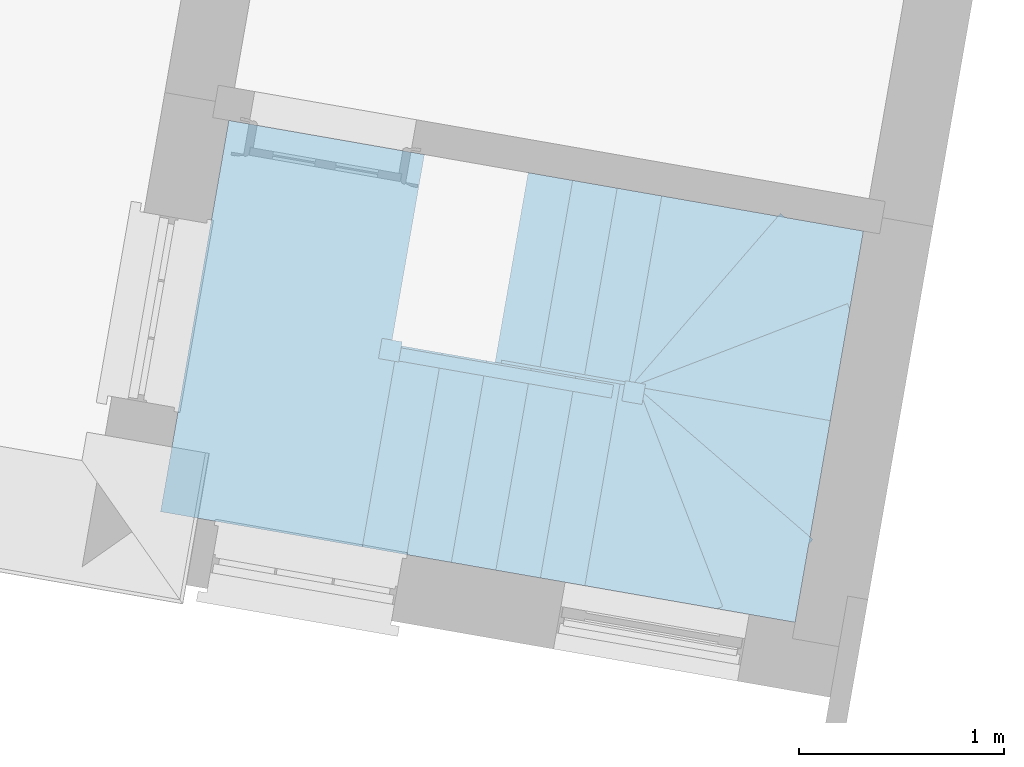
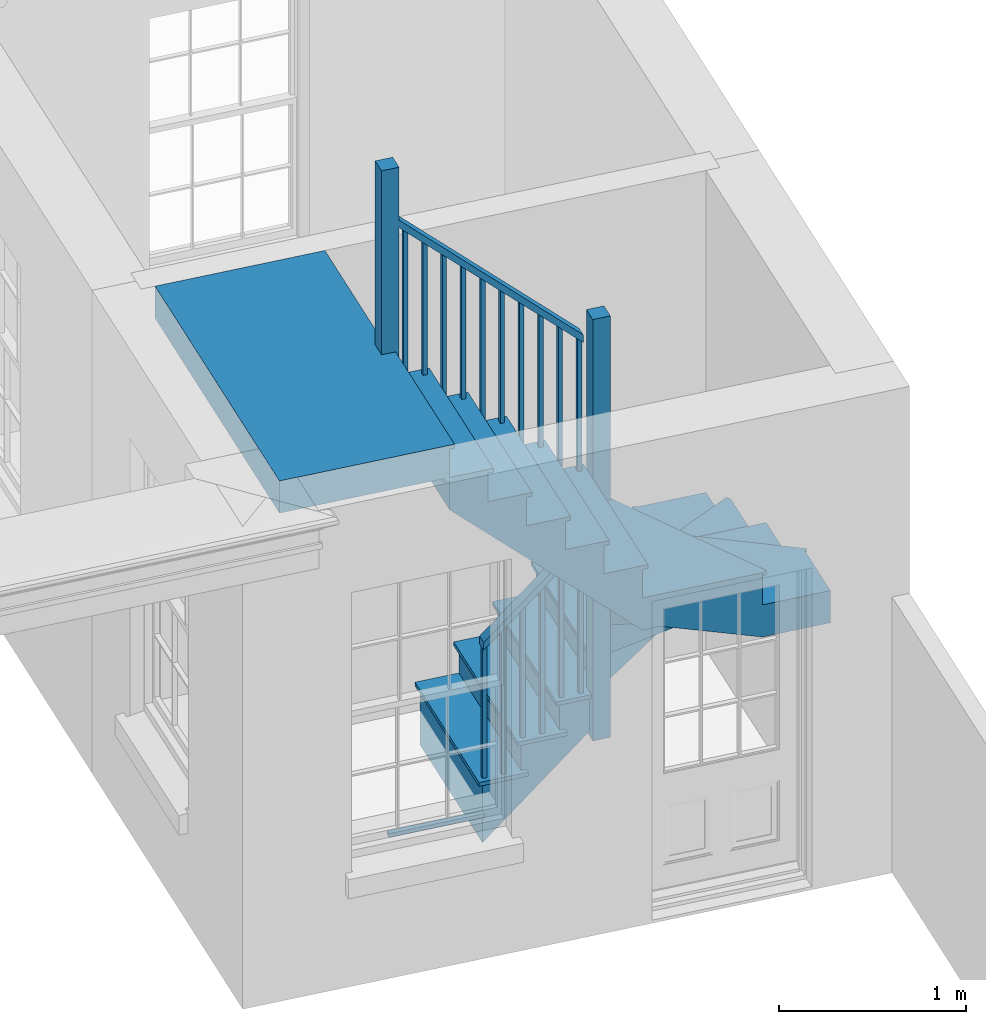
# One storey, part 4 of 4: 1 stair.
"""IFC4 building model written with IfcOpenShell, lengths in metres."""

from ifc_helpers import new_model, si_unit, frame, origin, origin_with_axes, place, context, subcontext, project, spatial, faceted_brep, element, save


model = new_model("IFC4")

# Units and contexts
model_context = context("Model", 3, world=origin_with_axes())
body_context = subcontext(model_context, "Body", "Model", "MODEL_VIEW")
ifc_project = project(units=[si_unit("PLANEANGLEUNIT", "RADIAN"), si_unit("MASSUNIT", "GRAM", prefix="KILO"), si_unit("FORCEUNIT", "NEWTON", prefix="KILO"), si_unit("LENGTHUNIT", "METRE"), si_unit("AREAUNIT", "SQUARE_METRE"), si_unit("VOLUMEUNIT", "CUBIC_METRE")], contexts=[model_context, model_context])

# Sites, building, storey
site_1_placement = place(None, origin_with_axes())
site_1 = spatial("IfcSite", under=ifc_project, at=site_1_placement, Name="Tamar")
site_2_placement = place(site_1_placement, origin_with_axes())
site_2 = spatial("IfcSite", under=site_1, at=site_2_placement, Name="Site plot-26", CompositionType="ELEMENT")
building_placement = place(None, origin_with_axes())
building = spatial("IfcBuilding", under=site_2, at=building_placement, Name="Building plot-26", CompositionType="ELEMENT")
storey_placement = place(None, frame((0.0, 0.0, 26.0), z_axis=(0.0, 0.0, 1.0), x_axis=(1.0, 0.0, 0.0)))
storey = spatial("IfcBuildingStorey", under=building, at=storey_placement, Name="plot-26 0", CompositionType="ELEMENT", Elevation=26.0)

# Stair
stair_placement = place(None, origin())
element("IfcStair", 1, at=stair_placement, inside=storey, Name="Stair", PredefinedType="NOTDEFINED", context=body_context, shape_type="Brep", body=[
    faceted_brep([(288.665286, 271.699276, 28.94), (288.499177, 270.746711, 28.94), (288.715906, 270.708918, 28.94), (288.882015, 271.661483, 28.94), (288.882015, 271.661483, 28.52), (288.715906, 270.708918, 28.52), (288.499177, 270.746711, 28.73), (288.665286, 271.699276, 28.73)], [[[0, 1, 2, 3]], [[4, 5, 6, 7]], [[7, 6, 1, 0]], [[1, 6, 5, 2]], [[5, 4, 3, 2]], [[3, 4, 7, 0]]]),
    faceted_brep([(288.74546, 270.703764, 28.915), (288.74546, 270.703764, 28.94), (288.715906, 270.708918, 28.915), (288.469623, 270.751865, 28.94), (288.469623, 270.751865, 28.915), (288.499177, 270.746711, 28.915), (288.715906, 270.708918, 28.94), (288.499177, 270.746711, 28.94), (288.916723, 271.685883, 28.94), (288.882015, 271.661483, 28.94), (288.882015, 271.661483, 28.915), (288.916723, 271.685883, 28.915), (288.640886, 271.733984, 28.94), (288.665286, 271.699276, 28.94), (288.665286, 271.699276, 28.915), (288.640886, 271.733984, 28.915)], [[[0, 1, 2]], [[3, 4, 5]], [[2, 1, 6]], [[3, 5, 7]], [[6, 1, 8, 9]], [[2, 6, 9, 10]], [[0, 2, 10, 11]], [[1, 0, 11, 8]], [[9, 8, 12, 13]], [[10, 9, 13, 14]], [[11, 10, 14, 15]], [[8, 11, 15, 12]], [[13, 12, 3, 7]], [[14, 13, 7, 5]], [[15, 14, 5, 4]], [[12, 15, 4, 3]]]),
    faceted_brep([(288.882015, 271.661483, 29.84), (288.857387, 271.665778, 29.84), (288.853092, 271.641149, 29.84), (288.877721, 271.636855, 29.84), (288.877721, 271.636855, 28.94), (288.853092, 271.641149, 28.94), (288.857387, 271.665778, 28.94), (288.882015, 271.661483, 28.94)], [[[0, 1, 2, 3]], [[4, 5, 6, 7]], [[7, 6, 1, 0]], [[6, 5, 2, 1]], [[5, 4, 3, 2]], [[4, 7, 0, 3]]]),
    faceted_brep([(288.773651, 271.68038, 29.945), (288.749022, 271.684674, 29.945), (288.744728, 271.660046, 29.945), (288.769356, 271.655751, 29.945), (288.769356, 271.655751, 28.94), (288.744728, 271.660046, 28.94), (288.749022, 271.684674, 28.94), (288.773651, 271.68038, 28.94)], [[[0, 1, 2, 3]], [[4, 5, 6, 7]], [[7, 6, 1, 0]], [[6, 5, 2, 1]], [[5, 4, 3, 2]], [[4, 7, 0, 3]]]),
    faceted_brep([(288.874285, 271.617152, 29.79), (288.885451, 271.681186, 29.79), (288.885451, 271.681186, 29.84), (288.874285, 271.617152, 29.84), (288.668722, 271.718979, 30.0), (288.657555, 271.654945, 30.0), (288.657555, 271.654945, 30.05), (288.668722, 271.718979, 30.05)], [[[0, 1, 2, 3]], [[4, 5, 6, 7]], [[0, 5, 4, 1]], [[3, 2, 7, 6]], [[0, 3, 6, 5]], [[2, 1, 4, 7]]]),
    faceted_brep([(288.882015, 271.661483, 28.73), (288.715906, 270.708918, 28.73), (288.932635, 270.671124, 28.73), (289.098745, 271.623689, 28.73), (289.098745, 271.623689, 28.31), (288.932635, 270.671124, 28.31), (288.715906, 270.708918, 28.52), (288.882015, 271.661483, 28.52)], [[[0, 1, 2, 3]], [[4, 5, 6, 7]], [[7, 6, 1, 0]], [[1, 6, 5, 2]], [[5, 4, 3, 2]], [[3, 4, 7, 0]]]),
    faceted_brep([(288.932635, 270.671124, 28.705), (288.96219, 270.665971, 28.705), (288.932635, 270.671124, 28.73), (288.686352, 270.714072, 28.705), (288.715906, 270.708918, 28.705), (288.715906, 270.708918, 28.73), (288.96219, 270.665971, 28.73), (288.686352, 270.714072, 28.73), (289.133452, 271.64809, 28.73), (289.098745, 271.623689, 28.73), (289.098745, 271.623689, 28.705), (289.133452, 271.64809, 28.705), (288.857615, 271.696191, 28.73), (288.882015, 271.661483, 28.73), (288.882015, 271.661483, 28.705), (288.857615, 271.696191, 28.705)], [[[0, 1, 2]], [[3, 4, 5]], [[1, 6, 2]], [[7, 3, 5]], [[2, 6, 8, 9]], [[0, 2, 9, 10]], [[1, 0, 10, 11]], [[6, 1, 11, 8]], [[9, 8, 12, 13]], [[10, 9, 13, 14]], [[11, 10, 14, 15]], [[8, 11, 15, 12]], [[13, 12, 7, 5]], [[14, 13, 5, 4]], [[15, 14, 4, 3]], [[12, 15, 3, 7]]]),
    faceted_brep([(289.098745, 271.623689, 29.63), (289.074116, 271.627984, 29.63), (289.069822, 271.603356, 29.63), (289.09445, 271.599061, 29.63), (289.09445, 271.599061, 28.73), (289.069822, 271.603356, 28.73), (289.074116, 271.627984, 28.73), (289.098745, 271.623689, 28.73)], [[[0, 1, 2, 3]], [[4, 5, 6, 7]], [[7, 6, 1, 0]], [[6, 5, 2, 1]], [[5, 4, 3, 2]], [[4, 7, 0, 3]]]),
    faceted_brep([(288.99038, 271.642586, 29.735), (288.965752, 271.646881, 29.735), (288.961457, 271.622253, 29.735), (288.986085, 271.617958, 29.735), (288.986085, 271.617958, 28.73), (288.961457, 271.622253, 28.73), (288.965752, 271.646881, 28.73), (288.99038, 271.642586, 28.73)], [[[0, 1, 2, 3]], [[4, 5, 6, 7]], [[7, 6, 1, 0]], [[6, 5, 2, 1]], [[5, 4, 3, 2]], [[4, 7, 0, 3]]]),
    faceted_brep([(289.091014, 271.579358, 29.58), (289.102181, 271.643392, 29.58), (289.102181, 271.643392, 29.63), (289.091014, 271.579358, 29.63), (288.885451, 271.681186, 29.79), (288.874285, 271.617152, 29.79), (288.874285, 271.617152, 29.84), (288.885451, 271.681186, 29.84)], [[[0, 1, 2, 3]], [[4, 5, 6, 7]], [[0, 5, 4, 1]], [[3, 2, 7, 6]], [[0, 3, 6, 5]], [[2, 1, 4, 7]]]),
    faceted_brep([(289.098745, 271.623689, 28.52), (288.932635, 270.671124, 28.52), (289.149365, 270.633331, 28.52), (289.315474, 271.585896, 28.52), (289.315474, 271.585896, 28.1), (289.149365, 270.633331, 28.1), (288.932635, 270.671124, 28.31), (289.098745, 271.623689, 28.31)], [[[0, 1, 2, 3]], [[4, 5, 6, 7]], [[7, 6, 1, 0]], [[1, 6, 5, 2]], [[5, 4, 3, 2]], [[3, 4, 7, 0]]]),
    faceted_brep([(289.149365, 270.633331, 28.495), (289.178919, 270.628177, 28.495), (289.149365, 270.633331, 28.52), (288.903081, 270.676278, 28.495), (288.932635, 270.671124, 28.495), (288.932635, 270.671124, 28.52), (289.178919, 270.628177, 28.52), (288.903081, 270.676278, 28.52), (289.350182, 271.610296, 28.52), (289.315474, 271.585896, 28.52), (289.315474, 271.585896, 28.495), (289.350182, 271.610296, 28.495), (289.074344, 271.658397, 28.52), (289.098745, 271.623689, 28.52), (289.098745, 271.623689, 28.495), (289.074344, 271.658397, 28.495)], [[[0, 1, 2]], [[3, 4, 5]], [[1, 6, 2]], [[7, 3, 5]], [[2, 6, 8, 9]], [[0, 2, 9, 10]], [[1, 0, 10, 11]], [[6, 1, 11, 8]], [[9, 8, 12, 13]], [[10, 9, 13, 14]], [[11, 10, 14, 15]], [[8, 11, 15, 12]], [[13, 12, 7, 5]], [[14, 13, 5, 4]], [[15, 14, 4, 3]], [[12, 15, 3, 7]]]),
    faceted_brep([(289.315474, 271.585896, 29.42), (289.290846, 271.590191, 29.42), (289.286551, 271.565562, 29.42), (289.31118, 271.561268, 29.42), (289.31118, 271.561268, 28.52), (289.286551, 271.565562, 28.52), (289.290846, 271.590191, 28.52), (289.315474, 271.585896, 28.52)], [[[0, 1, 2, 3]], [[4, 5, 6, 7]], [[7, 6, 1, 0]], [[6, 5, 2, 1]], [[5, 4, 3, 2]], [[4, 7, 0, 3]]]),
    faceted_brep([(289.20711, 271.604793, 29.525), (289.182481, 271.609087, 29.525), (289.178186, 271.584459, 29.525), (289.202815, 271.580164, 29.525), (289.202815, 271.580164, 28.52), (289.178186, 271.584459, 28.52), (289.182481, 271.609087, 28.52), (289.20711, 271.604793, 28.52)], [[[0, 1, 2, 3]], [[4, 5, 6, 7]], [[7, 6, 1, 0]], [[6, 5, 2, 1]], [[5, 4, 3, 2]], [[4, 7, 0, 3]]]),
    faceted_brep([(289.307744, 271.541565, 29.37), (289.31891, 271.605599, 29.37), (289.31891, 271.605599, 29.42), (289.307744, 271.541565, 29.42), (289.102181, 271.643392, 29.58), (289.091014, 271.579358, 29.58), (289.091014, 271.579358, 29.63), (289.102181, 271.643392, 29.63)], [[[0, 1, 2, 3]], [[4, 5, 6, 7]], [[0, 5, 4, 1]], [[3, 2, 7, 6]], [[0, 3, 6, 5]], [[2, 1, 4, 7]]]),
    faceted_brep([(289.315474, 271.585896, 28.31), (289.149365, 270.633331, 28.31), (289.366094, 270.595537, 28.31), (289.532204, 271.548102, 28.31), (289.532204, 271.548102, 27.89), (289.366094, 270.595537, 27.89), (289.149365, 270.633331, 28.1), (289.315474, 271.585896, 28.1)], [[[0, 1, 2, 3]], [[4, 5, 6, 7]], [[7, 6, 1, 0]], [[1, 6, 5, 2]], [[5, 4, 3, 2]], [[3, 4, 7, 0]]]),
    faceted_brep([(289.395648, 270.590384, 28.285), (289.395648, 270.590384, 28.31), (289.366094, 270.595537, 28.285), (289.119811, 270.638484, 28.31), (289.119811, 270.638484, 28.285), (289.149365, 270.633331, 28.285), (289.366094, 270.595537, 28.31), (289.149365, 270.633331, 28.31), (289.566911, 271.572503, 28.31), (289.532204, 271.548102, 28.31), (289.532204, 271.548102, 28.285), (289.566911, 271.572503, 28.285), (289.291074, 271.620604, 28.31), (289.315474, 271.585896, 28.31), (289.315474, 271.585896, 28.285), (289.291074, 271.620604, 28.285)], [[[0, 1, 2]], [[3, 4, 5]], [[2, 1, 6]], [[3, 5, 7]], [[6, 1, 8, 9]], [[2, 6, 9, 10]], [[0, 2, 10, 11]], [[1, 0, 11, 8]], [[9, 8, 12, 13]], [[10, 9, 13, 14]], [[11, 10, 14, 15]], [[8, 11, 15, 12]], [[13, 12, 3, 7]], [[14, 13, 7, 5]], [[15, 14, 5, 4]], [[12, 15, 4, 3]]]),
    faceted_brep([(289.532204, 271.548102, 29.21), (289.507575, 271.552397, 29.21), (289.503281, 271.527769, 29.21), (289.527909, 271.523474, 29.21), (289.527909, 271.523474, 28.31), (289.503281, 271.527769, 28.31), (289.507575, 271.552397, 28.31), (289.532204, 271.548102, 28.31)], [[[0, 1, 2, 3]], [[4, 5, 6, 7]], [[7, 6, 1, 0]], [[6, 5, 2, 1]], [[5, 4, 3, 2]], [[4, 7, 0, 3]]]),
    faceted_brep([(289.423839, 271.566999, 29.315), (289.399211, 271.571294, 29.315), (289.394916, 271.546666, 29.315), (289.419544, 271.542371, 29.315), (289.419544, 271.542371, 28.31), (289.394916, 271.546666, 28.31), (289.399211, 271.571294, 28.31), (289.423839, 271.566999, 28.31)], [[[0, 1, 2, 3]], [[4, 5, 6, 7]], [[7, 6, 1, 0]], [[6, 5, 2, 1]], [[5, 4, 3, 2]], [[4, 7, 0, 3]]]),
    faceted_brep([(289.524473, 271.503771, 29.16), (289.535639, 271.567805, 29.16), (289.535639, 271.567805, 29.21), (289.524473, 271.503771, 29.21), (289.31891, 271.605599, 29.37), (289.307744, 271.541565, 29.37), (289.307744, 271.541565, 29.42), (289.31891, 271.605599, 29.42)], [[[0, 1, 2, 3]], [[4, 5, 6, 7]], [[0, 5, 4, 1]], [[3, 2, 7, 6]], [[0, 3, 6, 5]], [[2, 1, 4, 7]]]),
    faceted_brep([(289.532204, 271.548102, 28.1), (289.366094, 270.595537, 28.1), (289.582824, 270.557744, 28.1), (289.748933, 271.510309, 28.1), (289.748933, 271.510309, 27.68), (289.582824, 270.557744, 27.68), (289.366094, 270.595537, 27.89), (289.532204, 271.548102, 27.89)], [[[0, 1, 2, 3]], [[4, 5, 6, 7]], [[7, 6, 1, 0]], [[1, 6, 5, 2]], [[5, 4, 3, 2]], [[3, 4, 7, 0]]]),
    faceted_brep([(289.612378, 270.55259, 28.075), (289.612378, 270.55259, 28.1), (289.582824, 270.557744, 28.075), (289.33654, 270.600691, 28.1), (289.33654, 270.600691, 28.075), (289.366094, 270.595537, 28.075), (289.582824, 270.557744, 28.1), (289.366094, 270.595537, 28.1), (289.783641, 271.534709, 28.1), (289.748933, 271.510309, 28.1), (289.748933, 271.510309, 28.075), (289.783641, 271.534709, 28.075), (289.507803, 271.58281, 28.1), (289.532204, 271.548102, 28.1), (289.532204, 271.548102, 28.075), (289.507803, 271.58281, 28.075)], [[[0, 1, 2]], [[3, 4, 5]], [[2, 1, 6]], [[3, 5, 7]], [[6, 1, 8, 9]], [[2, 6, 9, 10]], [[0, 2, 10, 11]], [[1, 0, 11, 8]], [[9, 8, 12, 13]], [[10, 9, 13, 14]], [[11, 10, 14, 15]], [[8, 11, 15, 12]], [[13, 12, 3, 7]], [[14, 13, 7, 5]], [[15, 14, 5, 4]], [[12, 15, 4, 3]]]),
    faceted_brep([(289.748933, 271.510309, 29.0), (289.724305, 271.514604, 29.0), (289.72001, 271.489975, 29.0), (289.744638, 271.485681, 29.0), (289.744638, 271.485681, 28.1), (289.72001, 271.489975, 28.1), (289.724305, 271.514604, 28.1), (289.748933, 271.510309, 28.1)], [[[0, 1, 2, 3]], [[4, 5, 6, 7]], [[7, 6, 1, 0]], [[6, 5, 2, 1]], [[5, 4, 3, 2]], [[4, 7, 0, 3]]]),
    faceted_brep([(289.640568, 271.529206, 29.105), (289.61594, 271.5335, 29.105), (289.611645, 271.508872, 29.105), (289.636274, 271.504577, 29.105), (289.636274, 271.504577, 28.1), (289.611645, 271.508872, 28.1), (289.61594, 271.5335, 28.1), (289.640568, 271.529206, 28.1)], [[[0, 1, 2, 3]], [[4, 5, 6, 7]], [[7, 6, 1, 0]], [[6, 5, 2, 1]], [[5, 4, 3, 2]], [[4, 7, 0, 3]]]),
    faceted_brep([(289.741203, 271.465978, 28.95), (289.752369, 271.530012, 28.95), (289.752369, 271.530012, 29.0), (289.741203, 271.465978, 29.0), (289.535639, 271.567805, 29.16), (289.524473, 271.503771, 29.16), (289.524473, 271.503771, 29.21), (289.535639, 271.567805, 29.21)], [[[0, 1, 2, 3]], [[4, 5, 6, 7]], [[0, 5, 4, 1]], [[3, 2, 7, 6]], [[0, 3, 6, 5]], [[2, 1, 4, 7]]]),
    faceted_brep([(289.748933, 271.510309, 27.89), (289.582824, 270.557744, 27.89), (289.683602, 270.54017, 27.89), (289.849711, 271.492735, 27.89), (289.849711, 271.492735, 27.68), (289.683602, 270.54017, 27.68), (289.582824, 270.557744, 27.68), (289.748933, 271.510309, 27.68)], [[[0, 1, 2, 3]], [[4, 5, 6, 7]], [[7, 6, 1, 0]], [[6, 5, 2, 1]], [[5, 4, 3, 2]], [[4, 7, 0, 3]]]),
    faceted_brep([(289.849711, 271.492735, 27.865), (289.854865, 271.522289, 27.865), (289.849711, 271.492735, 27.89), (289.754087, 271.539863, 27.865), (289.748933, 271.510309, 27.865), (289.748933, 271.510309, 27.89), (289.854865, 271.522289, 27.89), (289.754087, 271.539863, 27.89)], [[[0, 1, 2]], [[3, 4, 5]], [[1, 6, 2]], [[7, 3, 5]], [[2, 6, 7, 5]], [[0, 2, 5, 4]], [[1, 0, 4, 3]], [[6, 1, 3, 7]]]),
    faceted_brep([(289.907557, 271.533402, 29.09), (289.809044, 271.550581, 29.09), (289.791865, 271.452068, 29.09), (289.890378, 271.434889, 29.09), (289.890378, 271.434889, 27.89), (289.791865, 271.452068, 27.89), (289.809044, 271.550581, 27.89), (289.907557, 271.533402, 27.89)], [[[0, 1, 2, 3]], [[4, 5, 6, 7]], [[7, 6, 1, 0]], [[6, 5, 2, 1]], [[5, 4, 3, 2]], [[4, 7, 0, 3]]]),
    faceted_brep([(289.683602, 270.54017, 27.89), (290.255141, 270.440504, 27.89), (289.849711, 271.492735, 27.89), (289.849711, 271.492735, 27.47), (290.255141, 270.440504, 27.47), (289.683602, 270.54017, 27.68)], [[[0, 1, 2]], [[3, 4, 5]], [[0, 5, 4, 1]], [[4, 3, 2, 1]], [[2, 3, 5, 0]]]),
    faceted_brep([(290.283135, 270.451291, 27.865), (290.283135, 270.451291, 27.89), (290.255141, 270.440504, 27.865), (289.877705, 271.503521, 27.89), (289.877705, 271.503521, 27.865), (289.849711, 271.492735, 27.865), (290.255141, 270.440504, 27.89), (289.849711, 271.492735, 27.89)], [[[0, 1, 2]], [[3, 4, 5]], [[2, 1, 6]], [[3, 5, 7]], [[6, 1, 3, 7]], [[2, 6, 7, 5]], [[0, 2, 5, 4]], [[1, 0, 4, 3]]]),
    faceted_brep([(290.255141, 270.440504, 27.68), (290.636167, 270.374061, 27.68), (290.702611, 270.755087, 27.68), (289.849711, 271.492735, 27.68), (289.849711, 271.492735, 27.26), (290.702611, 270.755087, 27.26), (290.636167, 270.374061, 27.47), (290.255141, 270.440504, 27.47)], [[[0, 1, 2, 3]], [[4, 5, 6, 7]], [[7, 6, 1, 0]], [[1, 6, 5, 2]], [[5, 4, 3, 2]], [[3, 4, 7, 0]]]),
    faceted_brep([(290.702611, 270.755087, 27.655), (290.722235, 270.777778, 27.655), (290.702611, 270.755087, 27.68), (289.869336, 271.515426, 27.655), (289.849711, 271.492735, 27.655), (289.849711, 271.492735, 27.68), (290.722235, 270.777778, 27.68), (289.869336, 271.515426, 27.68)], [[[0, 1, 2]], [[3, 4, 5]], [[1, 6, 2]], [[7, 3, 5]], [[2, 6, 7, 5]], [[0, 2, 5, 4]], [[1, 0, 4, 3]], [[6, 1, 3, 7]]]),
    faceted_brep([(290.702611, 270.755087, 27.47), (290.802276, 271.326626, 27.47), (289.849711, 271.492735, 27.47), (289.849711, 271.492735, 27.05), (290.802276, 271.326626, 27.05), (290.702611, 270.755087, 27.26)], [[[0, 1, 2]], [[3, 4, 5]], [[0, 5, 4, 1]], [[4, 3, 2, 1]], [[2, 3, 5, 0]]]),
    faceted_brep([(290.802276, 271.326626, 27.445), (290.80743, 271.35618, 27.445), (290.802276, 271.326626, 27.47), (289.854865, 271.522289, 27.445), (289.849711, 271.492735, 27.445), (289.849711, 271.492735, 27.47), (290.80743, 271.35618, 27.47), (289.854865, 271.522289, 27.47)], [[[0, 1, 2]], [[3, 4, 5]], [[1, 6, 2]], [[7, 3, 5]], [[2, 6, 7, 5]], [[0, 2, 5, 4]], [[1, 0, 4, 3]], [[6, 1, 3, 7]]]),
    faceted_brep([(289.907557, 271.533402, 27.89), (289.809044, 271.550581, 27.89), (289.791865, 271.452068, 27.89), (289.890378, 271.434889, 27.89), (289.890378, 271.434889, 26.97), (289.791865, 271.452068, 26.97), (289.809044, 271.550581, 26.97), (289.907557, 271.533402, 26.97)], [[[0, 1, 2, 3]], [[4, 5, 6, 7]], [[7, 6, 1, 0]], [[6, 5, 2, 1]], [[5, 4, 3, 2]], [[4, 7, 0, 3]]]),
    faceted_brep([(289.849711, 271.492735, 27.05), (290.802276, 271.326626, 27.05), (290.802276, 271.326626, 27.26), (289.849711, 271.492735, 27.26)], [[[0, 1, 2, 3]], [[1, 0, 3, 2]]]),
    faceted_brep([(289.879711, 271.492735, 27.235), (289.879711, 271.492735, 27.26), (289.849711, 271.492735, 27.235), (289.849711, 271.492735, 27.26)], [[[0, 1, 2]], [[1, 0, 2]], [[2, 1, 3]], [[1, 2, 3]]]),
    faceted_brep([(289.809044, 271.550581, 28.46), (289.791865, 271.452068, 28.46), (289.890378, 271.434889, 28.46), (289.907557, 271.533402, 28.46), (289.907557, 271.533402, 27.26), (289.890378, 271.434889, 27.26), (289.791865, 271.452068, 27.26), (289.809044, 271.550581, 27.26)], [[[0, 1, 2, 3]], [[4, 5, 6, 7]], [[7, 6, 1, 0]], [[6, 5, 2, 1]], [[5, 4, 3, 2]], [[4, 7, 0, 3]]]),
    faceted_brep([(290.802276, 271.326626, 27.26), (290.901942, 271.898165, 27.26), (289.849711, 271.492735, 27.26), (289.849711, 271.492735, 26.84), (290.901942, 271.898165, 26.84), (290.802276, 271.326626, 27.05)], [[[0, 1, 2]], [[3, 4, 5]], [[0, 5, 4, 1]], [[4, 3, 2, 1]], [[2, 3, 5, 0]]]),
    faceted_brep([(290.901942, 271.898165, 27.235), (290.891156, 271.926159, 27.235), (290.901942, 271.898165, 27.26), (289.838925, 271.520729, 27.235), (289.849711, 271.492735, 27.235), (289.849711, 271.492735, 27.26), (290.891156, 271.926159, 27.26), (289.838925, 271.520729, 27.26)], [[[0, 1, 2]], [[3, 4, 5]], [[1, 6, 2]], [[7, 3, 5]], [[2, 6, 7, 5]], [[0, 2, 5, 4]], [[1, 0, 4, 3]], [[6, 1, 3, 7]]]),
    faceted_brep([(290.901942, 271.898165, 27.05), (290.968386, 272.279191, 27.05), (290.58736, 272.345635, 27.05), (289.849711, 271.492735, 27.05), (289.849711, 271.492735, 26.63), (290.58736, 272.345635, 26.63), (290.968386, 272.279191, 26.84), (290.901942, 271.898165, 26.84)], [[[0, 1, 2, 3]], [[4, 5, 6, 7]], [[7, 6, 1, 0]], [[1, 6, 5, 2]], [[5, 4, 3, 2]], [[3, 4, 7, 0]]]),
    faceted_brep([(290.58736, 272.345635, 27.025), (290.564669, 272.365259, 27.025), (290.58736, 272.345635, 27.05), (289.82702, 271.51236, 27.025), (289.849711, 271.492735, 27.025), (289.849711, 271.492735, 27.05), (290.564669, 272.365259, 27.05), (289.82702, 271.51236, 27.05)], [[[0, 1, 2]], [[3, 4, 5]], [[1, 6, 2]], [[7, 3, 5]], [[2, 6, 7, 5]], [[0, 2, 5, 4]], [[1, 0, 4, 3]], [[6, 1, 3, 7]]]),
    faceted_brep([(290.58736, 272.345635, 26.84), (290.015821, 272.4453, 26.84), (289.849711, 271.492735, 26.84), (289.849711, 271.492735, 26.42), (290.015821, 272.4453, 26.42), (290.58736, 272.345635, 26.63)], [[[0, 1, 2]], [[3, 4, 5]], [[0, 5, 4, 1]], [[4, 3, 2, 1]], [[2, 3, 5, 0]]]),
    faceted_brep([(290.015821, 272.4453, 26.815), (289.986267, 272.450454, 26.815), (290.015821, 272.4453, 26.84), (289.820157, 271.497889, 26.815), (289.849711, 271.492735, 26.815), (289.849711, 271.492735, 26.84), (289.986267, 272.450454, 26.84), (289.820157, 271.497889, 26.84)], [[[0, 1, 2]], [[3, 4, 5]], [[1, 6, 2]], [[7, 3, 5]], [[2, 6, 7, 5]], [[0, 2, 5, 4]], [[1, 0, 4, 3]], [[6, 1, 3, 7]]]),
    faceted_brep([(289.809044, 271.550581, 27.26), (289.791865, 271.452068, 27.26), (289.890378, 271.434889, 27.26), (289.907557, 271.533402, 27.26), (289.907557, 271.533402, 26.34), (289.890378, 271.434889, 26.34), (289.791865, 271.452068, 26.34), (289.809044, 271.550581, 26.34)], [[[0, 1, 2, 3]], [[4, 5, 6, 7]], [[7, 6, 1, 0]], [[6, 5, 2, 1]], [[5, 4, 3, 2]], [[4, 7, 0, 3]]]),
    faceted_brep([(289.849711, 271.492735, 26.63), (290.015821, 272.4453, 26.63), (289.799091, 272.483094, 26.63), (289.632982, 271.530529, 26.63), (289.632982, 271.530529, 26.21), (289.799091, 272.483094, 26.21), (290.015821, 272.4453, 26.42), (289.849711, 271.492735, 26.42)], [[[0, 1, 2, 3]], [[4, 5, 6, 7]], [[7, 6, 1, 0]], [[1, 6, 5, 2]], [[5, 4, 3, 2]], [[3, 4, 7, 0]]]),
    faceted_brep([(289.769537, 272.488247, 26.605), (289.769537, 272.488247, 26.63), (289.799091, 272.483094, 26.605), (290.045375, 272.440147, 26.63), (290.045375, 272.440147, 26.605), (290.015821, 272.4453, 26.605), (289.799091, 272.483094, 26.63), (290.015821, 272.4453, 26.63), (289.598274, 271.506128, 26.63), (289.632982, 271.530529, 26.63), (289.632982, 271.530529, 26.605), (289.598274, 271.506128, 26.605), (289.874112, 271.458027, 26.63), (289.849711, 271.492735, 26.63), (289.849711, 271.492735, 26.605), (289.874112, 271.458027, 26.605)], [[[0, 1, 2]], [[3, 4, 5]], [[2, 1, 6]], [[3, 5, 7]], [[6, 1, 8, 9]], [[2, 6, 9, 10]], [[0, 2, 10, 11]], [[1, 0, 11, 8]], [[9, 8, 12, 13]], [[10, 9, 13, 14]], [[11, 10, 14, 15]], [[8, 11, 15, 12]], [[13, 12, 3, 7]], [[14, 13, 7, 5]], [[15, 14, 5, 4]], [[12, 15, 4, 3]]]),
    faceted_brep([(289.632982, 271.530529, 27.53), (289.65761, 271.526234, 27.53), (289.661905, 271.550862, 27.53), (289.637277, 271.555157, 27.53), (289.637277, 271.555157, 26.63), (289.661905, 271.550862, 26.63), (289.65761, 271.526234, 26.63), (289.632982, 271.530529, 26.63)], [[[0, 1, 2, 3]], [[4, 5, 6, 7]], [[7, 6, 1, 0]], [[6, 5, 2, 1]], [[5, 4, 3, 2]], [[4, 7, 0, 3]]]),
    faceted_brep([(289.741347, 271.511632, 27.635), (289.765975, 271.507337, 27.635), (289.77027, 271.531966, 27.635), (289.745641, 271.53626, 27.635), (289.745641, 271.53626, 26.63), (289.77027, 271.531966, 26.63), (289.765975, 271.507337, 26.63), (289.741347, 271.511632, 26.63)], [[[0, 1, 2, 3]], [[4, 5, 6, 7]], [[7, 6, 1, 0]], [[6, 5, 2, 1]], [[5, 4, 3, 2]], [[4, 7, 0, 3]]]),
    faceted_brep([(289.640712, 271.57486, 27.48), (289.629546, 271.510826, 27.48), (289.629546, 271.510826, 27.53), (289.640712, 271.57486, 27.53), (289.846275, 271.473032, 27.69), (289.857442, 271.537066, 27.69), (289.857442, 271.537066, 27.74), (289.846275, 271.473032, 27.74)], [[[0, 1, 2, 3]], [[4, 5, 6, 7]], [[0, 5, 4, 1]], [[3, 2, 7, 6]], [[0, 3, 6, 5]], [[2, 1, 4, 7]]]),
    faceted_brep([(289.632982, 271.530529, 26.42), (289.799091, 272.483094, 26.42), (289.582362, 272.520887, 26.42), (289.416252, 271.568322, 26.42), (289.416252, 271.568322, 26.0), (289.582362, 272.520887, 26.0), (289.799091, 272.483094, 26.21), (289.632982, 271.530529, 26.21)], [[[0, 1, 2, 3]], [[4, 5, 6, 7]], [[7, 6, 1, 0]], [[1, 6, 5, 2]], [[5, 4, 3, 2]], [[3, 4, 7, 0]]]),
    faceted_brep([(289.582362, 272.520887, 26.395), (289.552808, 272.526041, 26.395), (289.582362, 272.520887, 26.42), (289.828645, 272.47794, 26.395), (289.799091, 272.483094, 26.395), (289.799091, 272.483094, 26.42), (289.552808, 272.526041, 26.42), (289.828645, 272.47794, 26.42), (289.381545, 271.543922, 26.42), (289.416252, 271.568322, 26.42), (289.416252, 271.568322, 26.395), (289.381545, 271.543922, 26.395), (289.657382, 271.495821, 26.42), (289.632982, 271.530529, 26.42), (289.632982, 271.530529, 26.395), (289.657382, 271.495821, 26.395)], [[[0, 1, 2]], [[3, 4, 5]], [[1, 6, 2]], [[7, 3, 5]], [[2, 6, 8, 9]], [[0, 2, 9, 10]], [[1, 0, 10, 11]], [[6, 1, 11, 8]], [[9, 8, 12, 13]], [[10, 9, 13, 14]], [[11, 10, 14, 15]], [[8, 11, 15, 12]], [[13, 12, 7, 5]], [[14, 13, 5, 4]], [[15, 14, 4, 3]], [[12, 15, 3, 7]]]),
    faceted_brep([(289.416252, 271.568322, 27.32), (289.440881, 271.564027, 27.32), (289.445175, 271.588656, 27.32), (289.420547, 271.59295, 27.32), (289.420547, 271.59295, 26.42), (289.445175, 271.588656, 26.42), (289.440881, 271.564027, 26.42), (289.416252, 271.568322, 26.42)], [[[0, 1, 2, 3]], [[4, 5, 6, 7]], [[7, 6, 1, 0]], [[6, 5, 2, 1]], [[5, 4, 3, 2]], [[4, 7, 0, 3]]]),
    faceted_brep([(289.524617, 271.549425, 27.425), (289.549245, 271.545131, 27.425), (289.55354, 271.569759, 27.425), (289.528912, 271.574054, 27.425), (289.528912, 271.574054, 26.42), (289.55354, 271.569759, 26.42), (289.549245, 271.545131, 26.42), (289.524617, 271.549425, 26.42)], [[[0, 1, 2, 3]], [[4, 5, 6, 7]], [[7, 6, 1, 0]], [[6, 5, 2, 1]], [[5, 4, 3, 2]], [[4, 7, 0, 3]]]),
    faceted_brep([(289.423983, 271.612653, 27.27), (289.412817, 271.548619, 27.27), (289.412817, 271.548619, 27.32), (289.423983, 271.612653, 27.32), (289.629546, 271.510826, 27.48), (289.640712, 271.57486, 27.48), (289.640712, 271.57486, 27.53), (289.629546, 271.510826, 27.53)], [[[0, 1, 2, 3]], [[4, 5, 6, 7]], [[0, 5, 4, 1]], [[3, 2, 7, 6]], [[0, 3, 6, 5]], [[2, 1, 4, 7]]]),
    faceted_brep([(289.416252, 271.568322, 26.21), (289.582362, 272.520887, 26.21), (289.365632, 272.558681, 26.21), (289.199523, 271.606116, 26.21), (289.199523, 271.606116, 25.79), (289.365632, 272.558681, 25.79), (289.582362, 272.520887, 26.0), (289.416252, 271.568322, 26.0)], [[[0, 1, 2, 3]], [[4, 5, 6, 7]], [[7, 6, 1, 0]], [[1, 6, 5, 2]], [[5, 4, 3, 2]], [[3, 4, 7, 0]]]),
    faceted_brep([(289.336078, 272.563834, 26.185), (289.336078, 272.563834, 26.21), (289.365632, 272.558681, 26.185), (289.611916, 272.515734, 26.21), (289.611916, 272.515734, 26.185), (289.582362, 272.520887, 26.185), (289.365632, 272.558681, 26.21), (289.582362, 272.520887, 26.21), (289.164815, 271.581715, 26.21), (289.199523, 271.606116, 26.21), (289.199523, 271.606116, 26.185), (289.164815, 271.581715, 26.185), (289.440653, 271.533614, 26.21), (289.416252, 271.568322, 26.21), (289.416252, 271.568322, 26.185), (289.440653, 271.533614, 26.185)], [[[0, 1, 2]], [[3, 4, 5]], [[2, 1, 6]], [[3, 5, 7]], [[6, 1, 8, 9]], [[2, 6, 9, 10]], [[0, 2, 10, 11]], [[1, 0, 11, 8]], [[9, 8, 12, 13]], [[10, 9, 13, 14]], [[11, 10, 14, 15]], [[8, 11, 15, 12]], [[13, 12, 3, 7]], [[14, 13, 7, 5]], [[15, 14, 5, 4]], [[12, 15, 4, 3]]]),
    faceted_brep([(289.199523, 271.606116, 27.11), (289.224151, 271.601821, 27.11), (289.228446, 271.626449, 27.11), (289.203818, 271.630744, 27.11), (289.203818, 271.630744, 26.21), (289.228446, 271.626449, 26.21), (289.224151, 271.601821, 26.21), (289.199523, 271.606116, 26.21)], [[[0, 1, 2, 3]], [[4, 5, 6, 7]], [[7, 6, 1, 0]], [[6, 5, 2, 1]], [[5, 4, 3, 2]], [[4, 7, 0, 3]]]),
    faceted_brep([(289.307888, 271.587219, 27.215), (289.332516, 271.582924, 27.215), (289.336811, 271.607553, 27.215), (289.312182, 271.611847, 27.215), (289.312182, 271.611847, 26.21), (289.336811, 271.607553, 26.21), (289.332516, 271.582924, 26.21), (289.307888, 271.587219, 26.21)], [[[0, 1, 2, 3]], [[4, 5, 6, 7]], [[7, 6, 1, 0]], [[6, 5, 2, 1]], [[5, 4, 3, 2]], [[4, 7, 0, 3]]]),
    faceted_brep([(289.207253, 271.650447, 27.06), (289.196087, 271.586413, 27.06), (289.196087, 271.586413, 27.11), (289.207253, 271.650447, 27.11), (289.412817, 271.548619, 27.27), (289.423983, 271.612653, 27.27), (289.423983, 271.612653, 27.32), (289.412817, 271.548619, 27.32)], [[[0, 1, 2, 3]], [[4, 5, 6, 7]], [[0, 5, 4, 1]], [[3, 2, 7, 6]], [[0, 3, 6, 5]], [[2, 1, 4, 7]]]),
    faceted_brep([(288.660132, 271.669722, 25.975), (288.660132, 271.669722, 26.0), (288.665286, 271.699276, 25.975), (289.194369, 271.576562, 26.0), (289.194369, 271.576562, 25.975), (289.199523, 271.606116, 25.975), (288.665286, 271.699276, 26.0), (289.199523, 271.606116, 26.0)], [[[0, 1, 2]], [[3, 4, 5]], [[2, 1, 6]], [[3, 5, 7]], [[6, 1, 3, 7]], [[2, 6, 7, 5]], [[0, 2, 5, 4]], [[1, 0, 4, 3]]]),
    faceted_brep([(288.60744, 271.658609, 30.35), (288.705953, 271.64143, 30.35), (288.723132, 271.739944, 30.35), (288.624619, 271.757123, 30.35), (288.624619, 271.757123, 29.15), (288.723132, 271.739944, 29.15), (288.705953, 271.64143, 29.15), (288.60744, 271.658609, 29.15)], [[[0, 1, 2, 3]], [[4, 5, 6, 7]], [[7, 6, 1, 0]], [[6, 5, 2, 1]], [[5, 4, 3, 2]], [[4, 7, 0, 3]]]),
    faceted_brep([(288.665286, 271.699276, 29.15), (288.831395, 272.651842, 29.15), (287.87883, 272.817951, 29.15), (287.712721, 271.865386, 29.15), (287.712721, 271.865386, 28.94), (287.87883, 272.817951, 28.94), (288.831395, 272.651842, 28.94), (288.665286, 271.699276, 28.94)], [[[0, 1, 2, 3]], [[4, 5, 6, 7]], [[7, 6, 1, 0]], [[6, 5, 2, 1]], [[5, 4, 3, 2]], [[4, 7, 0, 3]]]),
    faceted_brep([(287.712721, 271.865386, 29.125), (287.707567, 271.835832, 29.125), (287.712721, 271.865386, 29.15), (288.660132, 271.669722, 29.125), (288.665286, 271.699276, 29.125), (288.665286, 271.699276, 29.15), (287.707567, 271.835832, 29.15), (288.660132, 271.669722, 29.15)], [[[0, 1, 2]], [[3, 4, 5]], [[1, 6, 2]], [[7, 3, 5]], [[2, 6, 7, 5]], [[0, 2, 5, 4]], [[1, 0, 4, 3]], [[6, 1, 3, 7]]]),
    faceted_brep([(288.60744, 271.658609, 29.15), (288.705953, 271.64143, 29.15), (288.723132, 271.739944, 29.15), (288.624619, 271.757123, 29.15), (288.624619, 271.757123, 28.65), (288.723132, 271.739944, 28.65), (288.705953, 271.64143, 28.65), (288.60744, 271.658609, 28.65)], [[[0, 1, 2, 3]], [[4, 5, 6, 7]], [[7, 6, 1, 0]], [[6, 5, 2, 1]], [[5, 4, 3, 2]], [[4, 7, 0, 3]]]),
    faceted_brep([(288.665286, 271.699276, 28.94), (287.712721, 271.865386, 28.94), (287.712721, 271.865386, 29.15), (288.665286, 271.699276, 29.15)], [[[0, 1, 2, 3]], [[1, 0, 3, 2]]]),
    faceted_brep([(288.695286, 271.699276, 29.125), (288.695286, 271.699276, 29.15), (288.665286, 271.699276, 29.125), (288.665286, 271.699276, 29.15)], [[[0, 1, 2]], [[1, 0, 2]], [[2, 1, 3]], [[1, 2, 3]]]),
    faceted_brep([(288.705953, 271.64143, 30.35), (288.723132, 271.739944, 30.35), (288.624619, 271.757123, 30.35), (288.60744, 271.658609, 30.35), (288.60744, 271.658609, 29.15), (288.624619, 271.757123, 29.15), (288.723132, 271.739944, 29.15), (288.705953, 271.64143, 29.15)], [[[0, 1, 2, 3]], [[4, 5, 6, 7]], [[7, 6, 1, 0]], [[6, 5, 2, 1]], [[5, 4, 3, 2]], [[4, 7, 0, 3]]]),
    faceted_brep([(288.665286, 271.699276, 29.15), (287.712721, 271.865386, 29.15), (287.546612, 270.912821, 29.15), (288.499177, 270.746711, 29.15), (288.499177, 270.746711, 28.94), (287.546612, 270.912821, 28.94), (287.712721, 271.865386, 28.94), (288.665286, 271.699276, 28.94)], [[[0, 1, 2, 3]], [[4, 5, 6, 7]], [[7, 6, 1, 0]], [[6, 5, 2, 1]], [[5, 4, 3, 2]], [[4, 7, 0, 3]]]),
    faceted_brep([(288.528731, 270.741558, 29.125), (288.528731, 270.741558, 29.15), (288.499177, 270.746711, 29.125), (288.69484, 271.694123, 29.15), (288.69484, 271.694123, 29.125), (288.665286, 271.699276, 29.125), (288.499177, 270.746711, 29.15), (288.665286, 271.699276, 29.15)], [[[0, 1, 2]], [[3, 4, 5]], [[2, 1, 6]], [[3, 5, 7]], [[6, 1, 3, 7]], [[2, 6, 7, 5]], [[0, 2, 5, 4]], [[1, 0, 4, 3]]]),
    faceted_brep([(288.705953, 271.64143, 29.15), (288.723132, 271.739944, 29.15), (288.624619, 271.757123, 29.15), (288.60744, 271.658609, 29.15), (288.60744, 271.658609, 28.65), (288.624619, 271.757123, 28.65), (288.723132, 271.739944, 28.65), (288.705953, 271.64143, 28.65)], [[[0, 1, 2, 3]], [[4, 5, 6, 7]], [[7, 6, 1, 0]], [[6, 5, 2, 1]], [[5, 4, 3, 2]], [[4, 7, 0, 3]]]),
])

save(model, "model.ifc")
